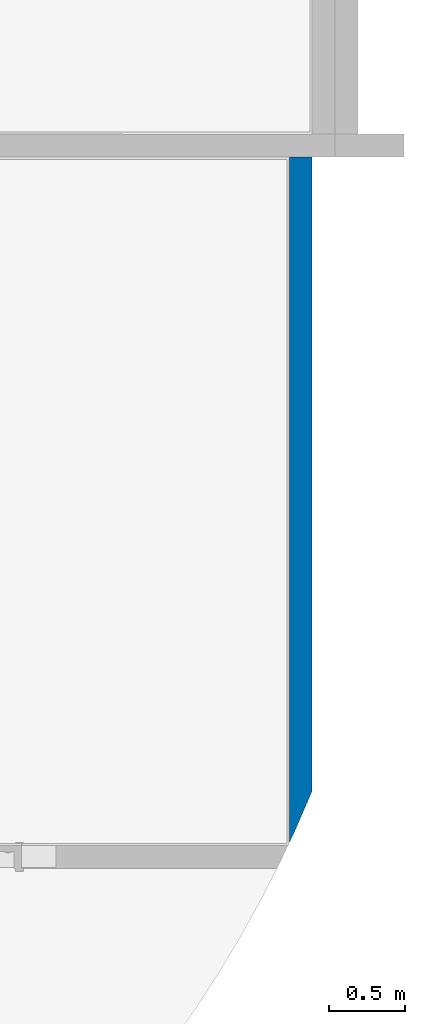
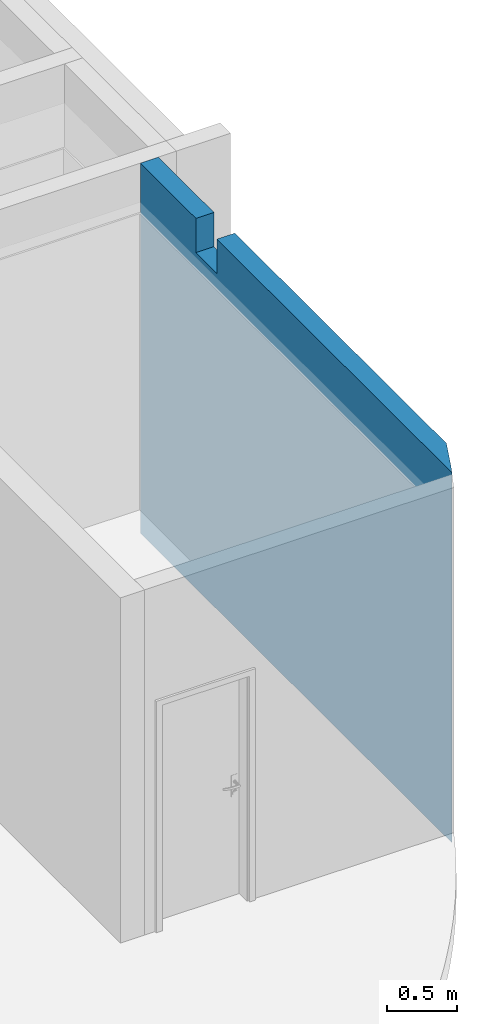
# One storey, part 18 of 21: 1 wall.
"""IFC4 building model written with IfcOpenShell, lengths in millimetres."""

from ifc_helpers import new_model, entity, si_unit, converted_unit, derived_unit, direction, frame, origin_with_axes, place, context, subcontext, project, spatial, polygons, material, constituent, constituent_set, type_object, element, save


model = new_model("IFC4")

# Units and contexts
model_context = context("Model", 3, precision=0.01, world=origin_with_axes(), true_north=direction((0.0, 1.0)))
body_context = subcontext(model_context, "Body", "Model", "MODEL_VIEW")
ifc_project = project(units=[si_unit("LENGTHUNIT", "METRE", prefix="MILLI"), si_unit("AREAUNIT", "SQUARE_METRE"), si_unit("VOLUMEUNIT", "CUBIC_METRE"), converted_unit("PLANEANGLEUNIT", "DEGREE", entity("IfcPlaneAngleMeasure", 0.0174532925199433), si_unit("PLANEANGLEUNIT", "RADIAN"), dimensions=[0, 0, 0, 0, 0, 0, 0]), converted_unit("TIMEUNIT", "Year", entity("IfcTimeMeasure", 31557600.0), si_unit("TIMEUNIT", "SECOND"), dimensions=[0, 0, 1, 0, 0, 0, 0]), si_unit("MASSUNIT", "GRAM", prefix="KILO"), si_unit("THERMODYNAMICTEMPERATUREUNIT", "DEGREE_CELSIUS"), si_unit("LUMINOUSINTENSITYUNIT", "LUMEN"), si_unit("ENERGYUNIT", "JOULE", prefix="MEGA"), derived_unit("THERMALCONDUCTANCEUNIT", [(si_unit("POWERUNIT", "WATT"), 1), (si_unit("LENGTHUNIT", "METRE"), -1), (si_unit("THERMODYNAMICTEMPERATUREUNIT", "KELVIN"), -1)]), derived_unit("SPECIFICHEATCAPACITYUNIT", [(si_unit("ENERGYUNIT", "JOULE"), 1), (si_unit("MASSUNIT", "GRAM", prefix="KILO"), -1), (si_unit("THERMODYNAMICTEMPERATUREUNIT", "KELVIN"), -1)]), derived_unit("MASSDENSITYUNIT", [(si_unit("MASSUNIT", "GRAM", prefix="KILO"), 1), (si_unit("VOLUMEUNIT", "CUBIC_METRE"), -1)])], contexts=[model_context])

# Site, building, storey
site_placement = place(None, origin_with_axes())
site = spatial("IfcSite", under=ifc_project, at=site_placement, Name="Exteriér", CompositionType="ELEMENT")
building_placement = place(site_placement, origin_with_axes())
building = spatial("IfcBuilding", under=site, at=building_placement, Name="Univerzitní lezecké centrum", CompositionType="ELEMENT")
storey_placement = place(building_placement, frame((0.0, 0.0, -3350.0), z_axis=(0.0, 0.0, 1.0), x_axis=(1.0, 0.0, 0.0)))
storey = spatial("IfcBuildingStorey", under=building, at=storey_placement, Name="1.PP", CompositionType="ELEMENT", Elevation=-3350.0)

# Wall
ifc_material = material(Name="Keramické tvárnice nenosné tl. 150 mm")
ifc_constituent = constituent(ifc_material, Name="Keramické tvárnice nenosné tl. 150 mm")
ifc_constituent_set = constituent_set(constituents=[ifc_constituent], Name="!Vnitřní keramická stěna 150 mm - nenosná*")
wall_type = type_object("IfcWallType", Name="!Vnitřní keramická stěna 150 mm - nenosná* 150", PredefinedType="NOTDEFINED")
wall_placement = place(storey_placement, frame((9849.851648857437, 949.9999999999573, -220.0000000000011), z_axis=(0.0, 0.0, 1.0), x_axis=(0.0, -1.0, 0.0)))
element("IfcWall", 1, at=wall_placement, inside=storey, type_object=wall_type, material=ifc_constituent_set, Name="St07*", PredefinedType="NOTDEFINED", context=body_context, shape_type="Tessellation", body=[
    polygons([(949.9999999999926, -150.0000000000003, 3250.000000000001), (949.9999999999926, 0.0, 3250.000000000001), (149.9999999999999, 0.0, 3250.000000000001), (149.9999999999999, -150.0000000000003, 3250.000000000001), (949.9999999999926, 0.0, 2950.000000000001), (949.9999999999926, -150.0000000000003, 2950.000000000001), (1249.999999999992, 0.0, 2950.000000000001), (1249.999999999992, 0.0, 3250.000000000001), (4292.922167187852, 0.0, 3250.000000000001), (4292.922167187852, 0.0, 0.0), (149.9999999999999, 0.0, 0.0), (149.9999999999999, -150.0000000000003, 0.0), (4632.42823517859, -150.0000000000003, 0.0), (4632.42823517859, -150.0000000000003, 3250.000000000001), (1249.999999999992, -150.0000000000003, 3250.000000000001), (1249.999999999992, -150.0000000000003, 2950.000000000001), (4556.218253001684, -113.7741539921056, 3250.000000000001), (4295.541604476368, -1.024222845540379, 3250.000000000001), (4295.541604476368, -1.024222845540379, 0.0), (4556.218253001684, -113.7741539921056, 0.0)], [[[1, 2, 3, 4]], [[5, 2, 1, 6]], [[7, 8, 9, 10, 11, 3, 2, 5]], [[12, 4, 3, 11]], [[6, 1, 4, 12, 13, 14, 15, 16]], [[7, 5, 6, 16]], [[15, 8, 7, 16]], [[8, 15, 14, 17, 18, 9]], [[19, 10, 9, 18]], [[19, 20, 13, 12, 11, 10]], [[20, 17, 14, 13]], [[19, 18, 17, 20]]], closed=True),
])

save(model, "model.ifc")
